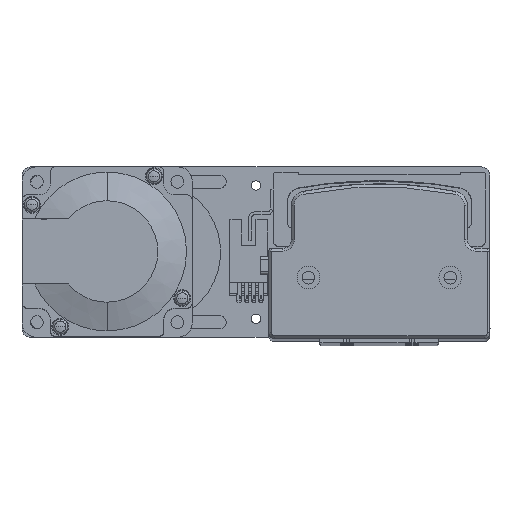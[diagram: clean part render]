
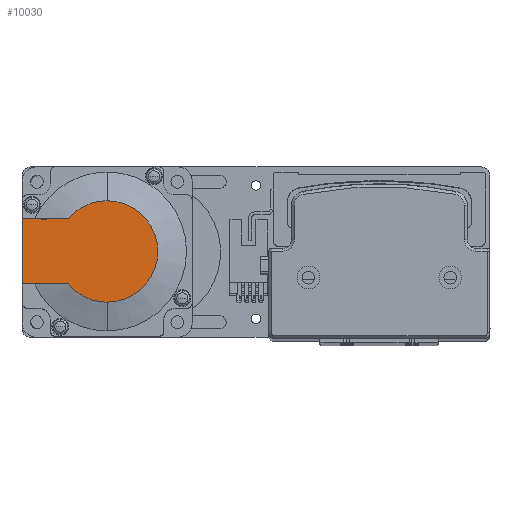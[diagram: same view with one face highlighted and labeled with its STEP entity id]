
A CAD part, top view. The second image highlights one B-rep face of the part: STEP entity #10030.
In plain terms, the highlighted planar face has unit normal (0, 0, 1) as drawn and (-1, 0, 0) by its records, which use the part's own axes.
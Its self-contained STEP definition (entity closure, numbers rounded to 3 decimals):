
#33 = FACE_OUTER_BOUND ( 'NONE', #22345, .T. ) ;
#734 = DIRECTION ( 'NONE',  ( -1., 0., 0. ) ) ;
#766 = VECTOR ( 'NONE', #3609, 1000. ) ;
#1130 = VECTOR ( 'NONE', #9559, 1000. ) ;
#1346 = CARTESIAN_POINT ( 'NONE',  ( -118.5, 0., -17.881 ) ) ;
#2729 = DIRECTION ( 'NONE',  ( -1., 0., 0. ) ) ;
#3392 = EDGE_CURVE ( 'NONE', #45608, #40821, #4647, .T. ) ;
#3609 = DIRECTION ( 'NONE',  ( 0., -1., 0. ) ) ;
#3934 = CARTESIAN_POINT ( 'NONE',  ( -118.5, 30., 11.45 ) ) ;
#4647 = CIRCLE ( 'NONE', #43512, 17.881 ) ;
#4707 = CARTESIAN_POINT ( 'NONE',  ( -118.5, 13.735, 11.45 ) ) ;
#5413 = VERTEX_POINT ( 'NONE', #4707 ) ;
#6244 = ORIENTED_EDGE ( 'NONE', *, *, #13760, .F. ) ;
#6662 = VECTOR ( 'NONE', #20106, 1000. ) ;
#7262 = CARTESIAN_POINT ( 'NONE',  ( -118.5, 0., 0. ) ) ;
#9559 = DIRECTION ( 'NONE',  ( 0., -1., 0. ) ) ;
#10030 = ADVANCED_FACE ( 'NONE', ( #33 ), #30717, .T. ) ;
#10891 = CIRCLE ( 'NONE', #40585, 17.881 ) ;
#10945 = DIRECTION ( 'NONE',  ( -1., 0., 0. ) ) ;
#11017 = DIRECTION ( 'NONE',  ( 0., 0., -1. ) ) ;
#13760 = EDGE_CURVE ( 'NONE', #42760, #5413, #21170, .T. ) ;
#14363 = ORIENTED_EDGE ( 'NONE', *, *, #23770, .T. ) ;
#15929 = ORIENTED_EDGE ( 'NONE', *, *, #27283, .F. ) ;
#16242 = EDGE_CURVE ( 'NONE', #23672, #45608, #37768, .T. ) ;
#16973 = CARTESIAN_POINT ( 'NONE',  ( -118.5, 0., 11.45 ) ) ;
#19064 = ORIENTED_EDGE ( 'NONE', *, *, #3392, .T. ) ;
#20082 = EDGE_CURVE ( 'NONE', #40821, #5413, #10891, .T. ) ;
#20106 = DIRECTION ( 'NONE',  ( 0., 0., 1. ) ) ;
#21170 = LINE ( 'NONE', #16973, #1130 ) ;
#21861 = CARTESIAN_POINT ( 'NONE',  ( -118.5, 13.735, -11.45 ) ) ;
#22345 = EDGE_LOOP ( 'NONE', ( #14363, #46565, #19064, #28441, #6244, #15929 ) ) ;
#23234 = CARTESIAN_POINT ( 'NONE',  ( -118.5, -8.941, 0. ) ) ;
#23672 = VERTEX_POINT ( 'NONE', #21861 ) ;
#23770 = EDGE_CURVE ( 'NONE', #38077, #23672, #38532, .T. ) ;
#25222 = CARTESIAN_POINT ( 'NONE',  ( -118.5, 0., 0. ) ) ;
#26142 = CARTESIAN_POINT ( 'NONE',  ( -118.5, -8.941, -11.45 ) ) ;
#27068 = DIRECTION ( 'NONE',  ( 0., 0., 1. ) ) ;
#27283 = EDGE_CURVE ( 'NONE', #38077, #42760, #35555, .T. ) ;
#27719 = CARTESIAN_POINT ( 'NONE',  ( -118.5, 30., 25. ) ) ;
#28123 = CARTESIAN_POINT ( 'NONE',  ( -118.5, 0., 17.881 ) ) ;
#28441 = ORIENTED_EDGE ( 'NONE', *, *, #20082, .T. ) ;
#29041 = DIRECTION ( 'NONE',  ( 0., 0., -1. ) ) ;
#30717 = PLANE ( 'NONE',  #36402 ) ;
#33535 = CARTESIAN_POINT ( 'NONE',  ( -118.5, 0., 0. ) ) ;
#33616 = DIRECTION ( 'NONE',  ( -1., 0., 0. ) ) ;
#35555 = LINE ( 'NONE', #27719, #6662 ) ;
#36402 = AXIS2_PLACEMENT_3D ( 'NONE', #23234, #734, #27068 ) ;
#37358 = DIRECTION ( 'NONE',  ( 0., 0., -1. ) ) ;
#37768 = CIRCLE ( 'NONE', #42446, 17.881 ) ;
#38077 = VERTEX_POINT ( 'NONE', #48152 ) ;
#38532 = LINE ( 'NONE', #26142, #766 ) ;
#40585 = AXIS2_PLACEMENT_3D ( 'NONE', #7262, #33616, #11017 ) ;
#40821 = VERTEX_POINT ( 'NONE', #28123 ) ;
#42446 = AXIS2_PLACEMENT_3D ( 'NONE', #33535, #10945, #37358 ) ;
#42760 = VERTEX_POINT ( 'NONE', #3934 ) ;
#43512 = AXIS2_PLACEMENT_3D ( 'NONE', #25222, #2729, #29041 ) ;
#45608 = VERTEX_POINT ( 'NONE', #1346 ) ;
#46565 = ORIENTED_EDGE ( 'NONE', *, *, #16242, .T. ) ;
#48152 = CARTESIAN_POINT ( 'NONE',  ( -118.5, 30., -11.45 ) ) ;
